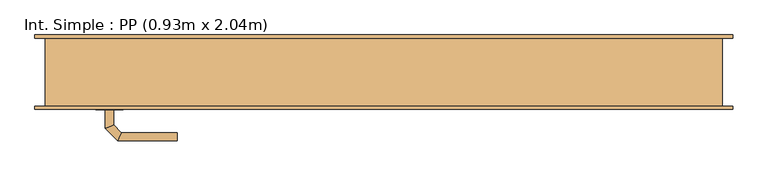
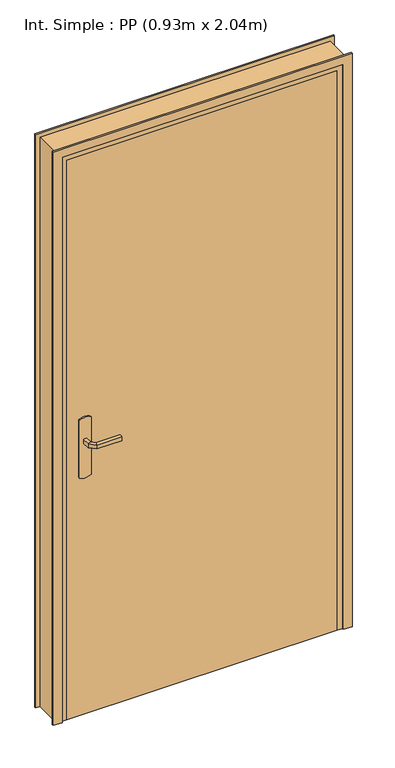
"""IFC4 building model written with IfcOpenShell, lengths in millimetres: door geometry, Int. Simple : PP (0.93m x 2.04m)."""

from ifc_helpers import new_model, si_unit, point, frame, frame_2d, origin, origin_with_axes, place, context, project, spatial, polyline, circle_curve, ellipse_curve, trimmed, segment, composite_curve, outline, extrude, faceted_brep, source, transform, mapped, element, save
from ifc_brep_helpers import plane_surface, cylinder_surface, advanced_brep


def int_simple_pp_0_93m_x_2_04m_4f2bf630(model_context):
    return source(origin(), model_context, "Body", "SolidModel", [
        extrude(outline(composite_curve([segment(trimmed(circle_curve(frame_2d((904.6410162, -440.0)), 40.0), [point((870.0, -460.0))], [point((870.0, -420.0))], False, "CARTESIAN"), True, "CONTINUOUS"), segment(polyline([(870.0, -420.0), (1080.0, -420.0)]), True, "CONTINUOUS"), segment(trimmed(circle_curve(frame_2d((1045.3589838, -440.0)), 40.0), [point((1080.0, -420.0))], [point((1080.0, -460.0))], False, "CARTESIAN"), True, "CONTINUOUS"), segment(polyline([(1080.0, -460.0), (870.0, -460.0)]), True, "CONTINUOUS")], self_intersect=False)), frame((0.0, -55.0, 0.0), z_axis=(0.0, 1.0, 0.0), x_axis=(0.0, 0.0, 1.0)), (0.0, 0.0, 1.0), 5.0),
        extrude(outline(composite_curve([segment(trimmed(circle_curve(frame_2d((1045.3589838, -440.0)), 40.0), [point((1080.0, -420.0))], [point((1080.0, -460.0))], False, "CARTESIAN"), True, "CONTINUOUS"), segment(polyline([(1080.0, -460.0), (870.0, -460.0)]), True, "CONTINUOUS"), segment(trimmed(circle_curve(frame_2d((904.6410162, -440.0)), 40.0), [point((870.0, -460.0))], [point((870.0, -420.0))], False, "CARTESIAN"), True, "CONTINUOUS"), segment(polyline([(870.0, -420.0), (1080.0, -420.0)]), True, "CONTINUOUS")], self_intersect=False)), frame((0.0, -10.0, 0.0), z_axis=(0.0, 1.0, 0.0), x_axis=(0.0, 0.0, 1.0)), (0.0, 0.0, 1.0), 5.0),
        advanced_brep(
        [(-446.0, -55.0, 1007.0), (-434.0, -55.0, 1007.0), (-434.0, -55.0, 993.0), (-446.0, -55.0, 993.0), (-446.0, -82.6509507, 1007.0), (-434.0, -77.680388, 1007.0), (-434.0, -77.680388, 993.0), (-446.0, -82.6509507, 993.0), (-427.62279, -101.0281607, 1007.0), (-422.6522273, -89.0281607, 1007.0), (-422.6522273, -89.0281607, 993.0), (-427.62279, -101.0281607, 993.0), (-339.9813594, -101.0281607, 1007.0), (-339.9813594, -101.0281607, 993.0), (-339.9813594, -89.0281607, 993.0), (-339.9813594, -89.0281607, 1007.0)],
        [
            (0, 1, circle_curve(frame((-440.0, -55.0, 986.9542278), z_axis=(0.0, 1.0, 0.0), x_axis=(1.0, 0.0, 0.0)), 20.9244589)),
            (1, 2),
            (2, 3, circle_curve(frame((-440.0, -55.0, 1013.0457722), z_axis=(0.0, 1.0, 0.0), x_axis=(1.0, 0.0, 0.0)), 20.9244589)),
            (3, 0),
            (0, 4),
            (4, 5, ellipse_curve(frame((-440.0, -80.1656693, 986.9542278), z_axis=(-0.3826834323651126, 0.9238795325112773, 0.0), x_axis=(0.9238795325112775, 0.38268343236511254, 0.0)), 22.6484711, 20.9244589)),
            (5, 1),
            (5, 6),
            (6, 2),
            (6, 7, ellipse_curve(frame((-440.0, -80.1656693, 1013.0457722), z_axis=(-0.3826834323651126, 0.9238795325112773, 0.0), x_axis=(0.9238795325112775, 0.38268343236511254, 0.0)), 22.6484711, 20.9244589)),
            (7, 3),
            (7, 4),
            (4, 8),
            (8, 9, ellipse_curve(frame((-425.1375086, -95.0281607, 986.9542278), z_axis=(-0.9238795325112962, 0.38268343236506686, 0.0), x_axis=(0.3826834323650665, 0.9238795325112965, 0.0)), 22.6484711, 20.9244589)),
            (9, 5),
            (9, 10),
            (10, 6),
            (10, 11, ellipse_curve(frame((-425.1375086, -95.0281607, 1013.0457722), z_axis=(-0.9238795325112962, 0.38268343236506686, 0.0), x_axis=(0.3826834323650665, 0.9238795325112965, 0.0)), 22.6484711, 20.9244589)),
            (11, 7),
            (11, 8),
            (12, 13),
            (13, 14, circle_curve(frame((-339.9813594, -95.0281607, 1013.0457722), z_axis=(1.0, 0.0, 0.0), x_axis=(0.0, 1.0, 0.0)), 20.9244589)),
            (14, 15),
            (15, 12, circle_curve(frame((-339.9813594, -95.0281607, 986.9542278), z_axis=(1.0, 0.0, 0.0), x_axis=(0.0, 1.0, 0.0)), 20.9244589)),
            (8, 12),
            (15, 9),
            (14, 10),
            (13, 11),
        ],
        [
            plane_surface(frame((-449.2195445, -55.0, 1000.0), z_axis=(0.0, 1.0, 0.0), x_axis=(0.0, 0.0, -1.0))),
            cylinder_surface(frame((-440.0, -55.0, 986.9542278), z_axis=(0.0, 1.0, 0.0), x_axis=(1.0, 0.0, 0.0)), 20.9244589),
            plane_surface(frame((-434.0, -55.0, 1007.0), z_axis=(1.0, 0.0, 0.0), x_axis=(0.0, -1.0, 0.0))),
            cylinder_surface(frame((-440.0, -55.0, 1013.0457722), z_axis=(0.0, 1.0, 0.0), x_axis=(1.0, 0.0, 0.0)), 20.9244589),
            plane_surface(frame((-446.0, -55.0, 993.0), z_axis=(-1.0, 0.0, 0.0), x_axis=(0.0, -1.0, 0.0))),
            cylinder_surface(frame((-440.0, -80.1656693, 986.9542278), z_axis=(-0.7071067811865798, 0.7071067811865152, 0.0), x_axis=(0.7071067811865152, 0.7071067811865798, 0.0)), 20.9244589),
            plane_surface(frame((-434.0, -77.680388, 1007.0), z_axis=(0.7071067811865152, 0.7071067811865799, 0.0), x_axis=(0.7071067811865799, -0.7071067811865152, 0.0))),
            cylinder_surface(frame((-440.0, -80.1656693, 1013.0457722), z_axis=(-0.7071067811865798, 0.7071067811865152, 0.0), x_axis=(0.7071067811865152, 0.7071067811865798, 0.0)), 20.9244589),
            plane_surface(frame((-446.0, -82.6509507, 993.0), z_axis=(-0.7071067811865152, -0.7071067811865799, 0.0), x_axis=(0.7071067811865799, -0.7071067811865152, 0.0))),
            plane_surface(frame((-339.9813594, -95.0281607, 990.7804555), z_axis=(1.0, 0.0, 0.0), x_axis=(0.0, 1.0, 0.0))),
            cylinder_surface(frame((-425.1375086, -95.0281607, 986.9542278), z_axis=(-1.0, 0.0, 0.0), x_axis=(0.0, 1.0, 0.0)), 20.9244589),
            plane_surface(frame((-422.6522273, -89.0281607, 1007.0), z_axis=(0.0, 1.0, 0.0), x_axis=(1.0, 0.0, 0.0))),
            cylinder_surface(frame((-425.1375086, -95.0281607, 1013.0457722), z_axis=(-1.0, 0.0, 0.0), x_axis=(0.0, 1.0, 0.0)), 20.9244589),
            plane_surface(frame((-427.62279, -101.0281607, 993.0), z_axis=(0.0, -1.0, 0.0), x_axis=(1.0, 0.0, 0.0))),
        ],
        [
            (0, [[1, 2, 3, 4]]),
            (1, [[-1, 5, 6, 7]]),
            (2, [[-2, -7, 8, 9]]),
            (3, [[-3, -9, 10, 11]]),
            (4, [[-4, -11, 12, -5]]),
            (5, [[-6, 13, 14, 15]]),
            (6, [[-8, -15, 16, 17]]),
            (7, [[-10, -17, 18, 19]]),
            (8, [[-12, -19, 20, -13]]),
            (9, [[21, 22, 23, 24]]),
            (10, [[-14, 25, -24, 26]]),
            (11, [[-16, -26, -23, 27]]),
            (12, [[-18, -27, -22, 28]]),
            (13, [[-20, -28, -21, -25]]),
        ],
    ),
        advanced_brep(
        [(-434.0, -5.0, 993.0), (-434.0, -5.0, 1007.0), (-446.0, -5.0, 1007.0), (-446.0, -5.0, 993.0), (-434.0, 17.4852045, 993.0), (-434.0, 17.4852045, 1007.0), (-446.0, 22.4557673, 1007.0), (-446.0, 22.4557673, 993.0), (-422.5147186, 28.9704859, 993.0), (-422.5147186, 28.9704859, 1007.0), (-427.4852814, 40.9704859, 1007.0), (-427.4852814, 40.9704859, 993.0), (-339.9542163, 28.9704859, 993.0), (-339.9542163, 40.9704859, 993.0), (-339.9542163, 40.9704859, 1007.0), (-339.9542163, 28.9704859, 1007.0)],
        [
            (0, 1),
            (1, 2, circle_curve(frame((-440.0, -5.0, 986.9542278), z_axis=(0.0, -1.0, 0.0), x_axis=(-1.0, 0.0, 0.0)), 20.9244589)),
            (2, 3),
            (3, 0, circle_curve(frame((-440.0, -5.0, 1013.0457722), z_axis=(0.0, -1.0, 0.0), x_axis=(-1.0, 0.0, 0.0)), 20.9244589)),
            (0, 4),
            (4, 5),
            (5, 1),
            (5, 6, ellipse_curve(frame((-440.0, 19.9704859, 986.9542278), z_axis=(-0.3826834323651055, -0.9238795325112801, 0.0), x_axis=(0.9238795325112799, -0.3826834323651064, 0.0)), 22.6484711, 20.9244589)),
            (6, 2),
            (6, 7),
            (7, 3),
            (7, 4, ellipse_curve(frame((-440.0, 19.9704859, 1013.0457722), z_axis=(-0.3826834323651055, -0.9238795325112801, 0.0), x_axis=(0.9238795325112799, -0.3826834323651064, 0.0)), 22.6484711, 20.9244589)),
            (4, 8),
            (8, 9),
            (9, 5),
            (9, 10, ellipse_curve(frame((-425.0, 34.9704859, 986.9542278), z_axis=(-0.9238795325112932, -0.382683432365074, 0.0), x_axis=(0.3826834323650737, -0.9238795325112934, 0.0)), 22.6484711, 20.9244589)),
            (10, 6),
            (10, 11),
            (11, 7),
            (11, 8, ellipse_curve(frame((-425.0, 34.9704859, 1013.0457722), z_axis=(-0.9238795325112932, -0.382683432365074, 0.0), x_axis=(0.3826834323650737, -0.9238795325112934, 0.0)), 22.6484711, 20.9244589)),
            (12, 13, circle_curve(frame((-339.9542163, 34.9704859, 1013.0457722), z_axis=(1.0, 0.0, 0.0), x_axis=(0.0, 1.0, 0.0)), 20.9244589)),
            (13, 14),
            (14, 15, circle_curve(frame((-339.9542163, 34.9704859, 986.9542278), z_axis=(1.0, 0.0, 0.0), x_axis=(0.0, 1.0, 0.0)), 20.9244589)),
            (15, 12),
            (8, 12),
            (15, 9),
            (14, 10),
            (13, 11),
        ],
        [
            plane_surface(frame((-449.2195445, -5.0, 1000.0), z_axis=(0.0, -1.0, 0.0), x_axis=(0.0, 0.0, 1.0))),
            plane_surface(frame((-434.0, -5.0, 993.0), z_axis=(1.0, 0.0, 0.0), x_axis=(0.0, 1.0, 0.0))),
            cylinder_surface(frame((-440.0, -5.0, 986.9542278), z_axis=(0.0, -1.0, 0.0), x_axis=(-1.0, 0.0, 0.0)), 20.9244589),
            plane_surface(frame((-446.0, -5.0, 1007.0), z_axis=(-1.0, 0.0, 0.0), x_axis=(0.0, 1.0, 0.0))),
            cylinder_surface(frame((-440.0, -5.0, 1013.0457722), z_axis=(0.0, -1.0, 0.0), x_axis=(-1.0, 0.0, 0.0)), 20.9244589),
            plane_surface(frame((-434.0, 17.4852045, 993.0), z_axis=(0.7071067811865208, -0.7071067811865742, 0.0), x_axis=(0.7071067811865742, 0.7071067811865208, 0.0))),
            cylinder_surface(frame((-440.0, 19.9704859, 986.9542278), z_axis=(-0.7071067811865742, -0.7071067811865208, 0.0), x_axis=(-0.7071067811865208, 0.7071067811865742, 0.0)), 20.9244589),
            plane_surface(frame((-446.0, 22.4557673, 1007.0), z_axis=(-0.7071067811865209, 0.7071067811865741, 0.0), x_axis=(0.7071067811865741, 0.7071067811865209, 0.0))),
            cylinder_surface(frame((-440.0, 19.9704859, 1013.0457722), z_axis=(-0.7071067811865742, -0.7071067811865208, 0.0), x_axis=(-0.7071067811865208, 0.7071067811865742, 0.0)), 20.9244589),
            plane_surface(frame((-339.9542163, 34.9704859, 990.7804555), z_axis=(1.0, 0.0, 0.0), x_axis=(0.0, 1.0, 0.0))),
            plane_surface(frame((-422.5147186, 28.9704859, 993.0), z_axis=(0.0, -1.0, 0.0), x_axis=(1.0, 0.0, 0.0))),
            cylinder_surface(frame((-425.0, 34.9704859, 986.9542278), z_axis=(-1.0, 0.0, 0.0), x_axis=(0.0, 1.0, 0.0)), 20.9244589),
            plane_surface(frame((-427.4852814, 40.9704859, 1007.0), z_axis=(0.0, 1.0, 0.0), x_axis=(1.0, 0.0, 0.0))),
            cylinder_surface(frame((-425.0, 34.9704859, 1013.0457722), z_axis=(-1.0, 0.0, 0.0), x_axis=(0.0, 1.0, 0.0)), 20.9244589),
        ],
        [
            (0, [[1, 2, 3, 4]]),
            (1, [[-1, 5, 6, 7]]),
            (2, [[-2, -7, 8, 9]]),
            (3, [[-3, -9, 10, 11]]),
            (4, [[-4, -11, 12, -5]]),
            (5, [[-6, 13, 14, 15]]),
            (6, [[-8, -15, 16, 17]]),
            (7, [[-10, -17, 18, 19]]),
            (8, [[-12, -19, 20, -13]]),
            (9, [[21, 22, 23, 24]]),
            (10, [[-14, 25, -24, 26]]),
            (11, [[-16, -26, -23, 27]]),
            (12, [[-18, -27, -22, 28]]),
            (13, [[-20, -28, -21, -25]]),
        ],
    ),
        extrude(outline(polyline([(-500.0, -10.0), (430.0, -10.0), (430.0, -50.0), (-500.0, -50.0), (-500.0, -10.0)])), origin_with_axes(), (0.0, 0.0, 1.0), 2040.0),
        faceted_brep([(-535.0, -50.0, 0.0), (-535.0, 50.0, 0.0), (-485.0, 50.0, 0.0), (-485.0, -10.0, 0.0), (-500.0, -10.0, 0.0), (-500.0, -50.0, 0.0), (-535.0, -50.0, 2075.0), (-535.0, 50.0, 2075.0), (465.0, 50.0, 2075.0), (465.0, 50.0, 0.0), (415.0, 50.0, 0.0), (415.0, 50.0, 2025.0), (-485.0, 50.0, 2025.0), (-485.0, -10.0, 2025.0), (415.0, -10.0, 2025.0), (415.0, -10.0, 0.0), (430.0, -10.0, 0.0), (430.0, -10.0, 2040.0), (-500.0, -10.0, 2040.0), (-500.0, -50.0, 2040.0), (430.0, -50.0, 2040.0), (430.0, -50.0, 0.0), (465.0, -50.0, 0.0), (465.0, -50.0, 2075.0)], [[[0, 1, 2, 3, 4, 5]], [[1, 0, 6, 7]], [[2, 1, 7, 8, 9, 10, 11, 12]], [[3, 2, 12, 13]], [[4, 3, 13, 14, 15, 16, 17, 18]], [[5, 4, 18, 19]], [[0, 5, 19, 20, 21, 22, 23, 6]], [[8, 23, 22, 9]], [[22, 21, 16, 15, 10, 9]], [[14, 11, 10, 15]], [[20, 17, 16, 21]], [[7, 6, 23, 8]], [[13, 12, 11, 14]], [[19, 18, 17, 20]]]),
        extrude(outline(polyline([(0.0, -550.0), (0.0, -520.0), (2060.0, -520.0), (2060.0, 450.0), (0.0, 450.0), (0.0, 480.0), (2090.0, 480.0), (2090.0, -550.0), (0.0, -550.0)])), frame((0.0, -55.0, 0.0), z_axis=(0.0, 1.0, 0.0), x_axis=(0.0, 0.0, 1.0)), (0.0, 0.0, 1.0), 5.0),
        extrude(outline(polyline([(0.0, -550.0), (0.0, -520.0), (2060.0, -520.0), (2060.0, 450.0), (0.0, 450.0), (0.0, 480.0), (2090.0, 480.0), (2090.0, -550.0), (0.0, -550.0)])), frame((0.0, 50.0, 0.0), z_axis=(0.0, 1.0, 0.0), x_axis=(0.0, 0.0, 1.0)), (0.0, 0.0, 1.0), 5.0),
    ])


if __name__ == "__main__":
    model = new_model("IFC4")
    model_context = context("Model", 3, world=origin())
    ifc_project = project(units=[si_unit("LENGTHUNIT", "METRE", prefix="MILLI")], contexts=[model_context])
    site = spatial("IfcSite", under=ifc_project)
    building = spatial("IfcBuilding", under=site)
    placement = place(None, origin())
    int_simple_pp_0_93m_x_2_04m_shape = int_simple_pp_0_93m_x_2_04m_4f2bf630(model_context)
    element("IfcDoor", 1, ObjectType="Int. Simple : PP (0.93m x 2.04m)", at=placement, inside=building, context=model_context, shape_type="MappedRepresentation", body=[
        mapped(int_simple_pp_0_93m_x_2_04m_shape, transform((0.0, 0.0, 0.0), x_axis=(1.0, 0.0, 0.0), y_axis=(0.0, 1.0, 0.0), z_axis=(0.0, 0.0, 1.0))),
    ])
    save(model, "model.ifc")
